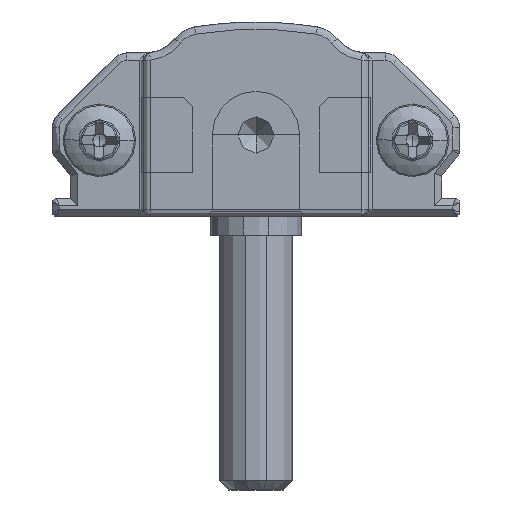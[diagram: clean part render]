
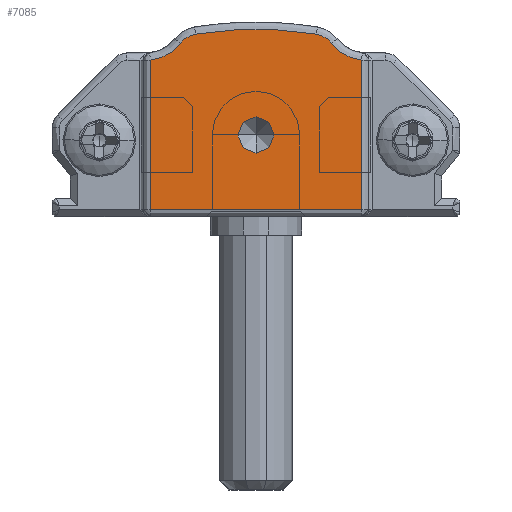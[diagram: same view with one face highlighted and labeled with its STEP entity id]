
A CAD part, front view. The second image highlights one B-rep face of the part: STEP entity #7085.
In plain terms, the highlighted planar face has unit normal (0, -1, 0).
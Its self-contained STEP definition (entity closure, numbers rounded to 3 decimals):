
#1133 = CARTESIAN_POINT ( 'NONE',  ( 14.3, -15., 8.75 ) ) ;
#1288 = EDGE_CURVE ( 'NONE', #25941, #22487, #22331, .T. ) ;
#1485 = CARTESIAN_POINT ( 'NONE',  ( 17., -15., 0.4 ) ) ;
#1638 = DIRECTION ( 'NONE',  ( 0., 0., -1. ) ) ;
#2018 = ORIENTED_EDGE ( 'NONE', *, *, #23017, .T. ) ;
#2574 = VERTEX_POINT ( 'NONE', #20071 ) ;
#2648 = CIRCLE ( 'NONE', #31501, 2.4 ) ;
#2838 = ORIENTED_EDGE ( 'NONE', *, *, #21457, .T. ) ;
#3485 = DIRECTION ( 'NONE',  ( 0., -1., 0. ) ) ;
#3591 = CIRCLE ( 'NONE', #29847, 1. ) ;
#3711 = DIRECTION ( 'NONE',  ( 0., 0., -1. ) ) ;
#4969 = EDGE_LOOP ( 'NONE', ( #16414, #18140 ) ) ;
#5522 = EDGE_CURVE ( 'NONE', #14008, #14913, #20244, .T. ) ;
#5714 = VERTEX_POINT ( 'NONE', #19885 ) ;
#6427 = ORIENTED_EDGE ( 'NONE', *, *, #8017, .T. ) ;
#6621 = DIRECTION ( 'NONE',  ( 0., 0., -1. ) ) ;
#7081 = FACE_BOUND ( 'NONE', #4969, .T. ) ;
#7085 = ADVANCED_FACE ( 'NONE', ( #30038, #7081 ), #27710, .T. ) ;
#7197 = ORIENTED_EDGE ( 'NONE', *, *, #1288, .T. ) ;
#8017 = EDGE_CURVE ( 'NONE', #2574, #25941, #23545, .T. ) ;
#8394 = EDGE_CURVE ( 'NONE', #22487, #5714, #2648, .T. ) ;
#9006 = DIRECTION ( 'NONE',  ( 0., -1., 0. ) ) ;
#9104 = LINE ( 'NONE', #1485, #17174 ) ;
#9202 = CARTESIAN_POINT ( 'NONE',  ( 11.2, -15., 3.5 ) ) ;
#10103 = AXIS2_PLACEMENT_3D ( 'NONE', #22032, #27227, #26760 ) ;
#10589 = CIRCLE ( 'NONE', #19169, 1.3 ) ;
#10916 = CARTESIAN_POINT ( 'NONE',  ( 17., -15., 0.4 ) ) ;
#11334 = DIRECTION ( 'NONE',  ( 0., 0., -1. ) ) ;
#11747 = DIRECTION ( 'NONE',  ( 1., 0., 0. ) ) ;
#12416 = EDGE_LOOP ( 'NONE', ( #12935, #19450, #32272, #6427, #7197, #25196, #2018, #2838 ) ) ;
#12596 = VERTEX_POINT ( 'NONE', #23083 ) ;
#12935 = ORIENTED_EDGE ( 'NONE', *, *, #5522, .T. ) ;
#14008 = VERTEX_POINT ( 'NONE', #10916 ) ;
#14491 = VECTOR ( 'NONE', #27982, 1000. ) ;
#14682 = VECTOR ( 'NONE', #6621, 1000. ) ;
#14913 = VERTEX_POINT ( 'NONE', #30653 ) ;
#15896 = DIRECTION ( 'NONE',  ( 0., -1., 0. ) ) ;
#16408 = AXIS2_PLACEMENT_3D ( 'NONE', #19041, #9006, #11334 ) ;
#16414 = ORIENTED_EDGE ( 'NONE', *, *, #25710, .F. ) ;
#16687 = EDGE_CURVE ( 'NONE', #33092, #18025, #16999, .T. ) ;
#16899 = DIRECTION ( 'NONE',  ( 0., 1., 0. ) ) ;
#16999 = CIRCLE ( 'NONE', #29878, 1. ) ;
#17174 = VECTOR ( 'NONE', #11747, 1000. ) ;
#17950 = CARTESIAN_POINT ( 'NONE',  ( 11.2, -15., 4.5 ) ) ;
#18025 = VERTEX_POINT ( 'NONE', #9202 ) ;
#18140 = ORIENTED_EDGE ( 'NONE', *, *, #16687, .F. ) ;
#18997 = EDGE_CURVE ( 'NONE', #12596, #2574, #10589, .T. ) ;
#19041 = CARTESIAN_POINT ( 'NONE',  ( 8.1, -15., 8.75 ) ) ;
#19169 = AXIS2_PLACEMENT_3D ( 'NONE', #1133, #3485, #19604 ) ;
#19259 = AXIS2_PLACEMENT_3D ( 'NONE', #21531, #31741, #3711 ) ;
#19450 = ORIENTED_EDGE ( 'NONE', *, *, #26310, .T. ) ;
#19604 = DIRECTION ( 'NONE',  ( 0., 0., -1. ) ) ;
#19676 = LINE ( 'NONE', #29568, #14682 ) ;
#19885 = CARTESIAN_POINT ( 'NONE',  ( 5.4, -15., 8.612 ) ) ;
#20071 = CARTESIAN_POINT ( 'NONE',  ( 14.508, -15., 10.034 ) ) ;
#20244 = LINE ( 'NONE', #28311, #14491 ) ;
#21406 = CARTESIAN_POINT ( 'NONE',  ( 11.2, -15., 5.5 ) ) ;
#21457 = EDGE_CURVE ( 'NONE', #30278, #14008, #9104, .T. ) ;
#21531 = CARTESIAN_POINT ( 'NONE',  ( 11.2, -15., -10.376 ) ) ;
#21857 = AXIS2_PLACEMENT_3D ( 'NONE', #25864, #15896, #23332 ) ;
#22032 = CARTESIAN_POINT ( 'NONE',  ( 17.238, -15., 11. ) ) ;
#22331 = CIRCLE ( 'NONE', #16408, 1.3 ) ;
#22487 = VERTEX_POINT ( 'NONE', #30305 ) ;
#23017 = EDGE_CURVE ( 'NONE', #5714, #30278, #19676, .T. ) ;
#23083 = CARTESIAN_POINT ( 'NONE',  ( 15.332, -15., 9.541 ) ) ;
#23332 = DIRECTION ( 'NONE',  ( 0., 0., -1. ) ) ;
#23464 = CIRCLE ( 'NONE', #10103, 2.4 ) ;
#23545 = CIRCLE ( 'NONE', #19259, 20.676 ) ;
#24310 = CARTESIAN_POINT ( 'NONE',  ( 5.162, -15., 11. ) ) ;
#25196 = ORIENTED_EDGE ( 'NONE', *, *, #8394, .T. ) ;
#25246 = DIRECTION ( 'NONE',  ( 0., 0., -1. ) ) ;
#25710 = EDGE_CURVE ( 'NONE', #18025, #33092, #3591, .T. ) ;
#25714 = DIRECTION ( 'NONE',  ( 0., 0., -1. ) ) ;
#25864 = CARTESIAN_POINT ( 'NONE',  ( 22.15, -15., 3.606 ) ) ;
#25941 = VERTEX_POINT ( 'NONE', #28016 ) ;
#26310 = EDGE_CURVE ( 'NONE', #14913, #12596, #23464, .T. ) ;
#26760 = DIRECTION ( 'NONE',  ( 0., 0., -1. ) ) ;
#27227 = DIRECTION ( 'NONE',  ( 0., 1., 0. ) ) ;
#27710 = PLANE ( 'NONE',  #21857 ) ;
#27982 = DIRECTION ( 'NONE',  ( 0., 0., 1. ) ) ;
#28016 = CARTESIAN_POINT ( 'NONE',  ( 7.892, -15., 10.034 ) ) ;
#28223 = DIRECTION ( 'NONE',  ( 0., -1., 0. ) ) ;
#28311 = CARTESIAN_POINT ( 'NONE',  ( 17., -15., 8.612 ) ) ;
#28555 = CARTESIAN_POINT ( 'NONE',  ( 11.2, -15., 4.5 ) ) ;
#29568 = CARTESIAN_POINT ( 'NONE',  ( 5.4, -15., 0.4 ) ) ;
#29847 = AXIS2_PLACEMENT_3D ( 'NONE', #17950, #28223, #25714 ) ;
#29878 = AXIS2_PLACEMENT_3D ( 'NONE', #28555, #30418, #25246 ) ;
#30038 = FACE_OUTER_BOUND ( 'NONE', #12416, .T. ) ;
#30278 = VERTEX_POINT ( 'NONE', #30387 ) ;
#30305 = CARTESIAN_POINT ( 'NONE',  ( 7.068, -15., 9.541 ) ) ;
#30387 = CARTESIAN_POINT ( 'NONE',  ( 5.4, -15., 0.4 ) ) ;
#30418 = DIRECTION ( 'NONE',  ( 0., -1., 0. ) ) ;
#30653 = CARTESIAN_POINT ( 'NONE',  ( 17., -15., 8.612 ) ) ;
#31501 = AXIS2_PLACEMENT_3D ( 'NONE', #24310, #16899, #1638 ) ;
#31741 = DIRECTION ( 'NONE',  ( 0., -1., 0. ) ) ;
#32272 = ORIENTED_EDGE ( 'NONE', *, *, #18997, .T. ) ;
#33092 = VERTEX_POINT ( 'NONE', #21406 ) ;
